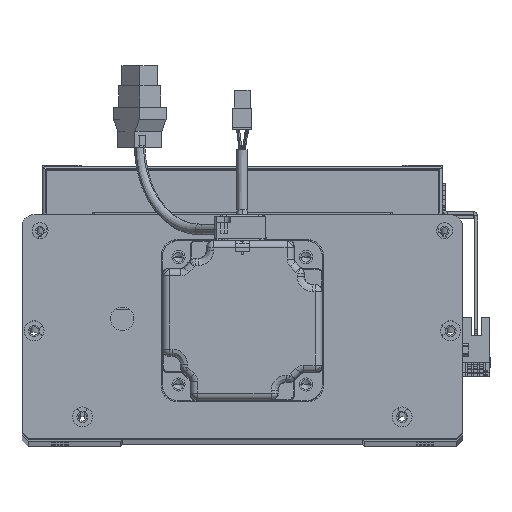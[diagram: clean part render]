
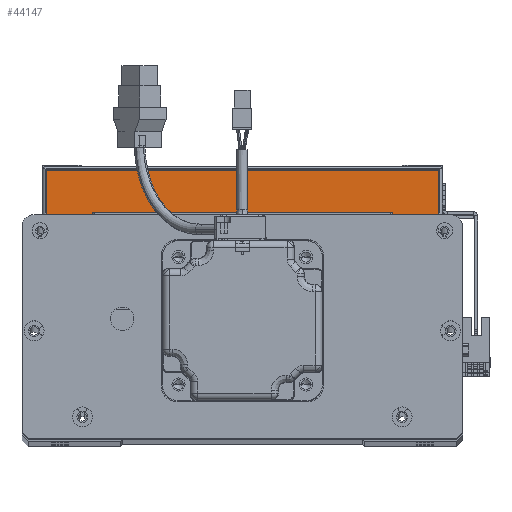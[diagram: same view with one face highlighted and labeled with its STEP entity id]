
A CAD part, top view. The second image highlights one B-rep face of the part: STEP entity #44147.
In plain terms, the highlighted planar face has unit normal (0, 0, 1) as drawn and (1, 0, 0) by its records, which use the part's own axes.
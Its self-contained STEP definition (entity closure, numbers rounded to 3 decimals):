
#1859 = VERTEX_POINT ( 'NONE', #51057 ) ;
#3922 = VERTEX_POINT ( 'NONE', #11935 ) ;
#7232 = DIRECTION ( 'NONE',  ( 0., 1., 0. ) ) ;
#11935 = CARTESIAN_POINT ( 'NONE',  ( 150., 22.5, -98. ) ) ;
#12269 = VERTEX_POINT ( 'NONE', #45018 ) ;
#15949 = VECTOR ( 'NONE', #49456, 1000. ) ;
#16260 = EDGE_CURVE ( 'NONE', #3922, #61060, #60023, .T. ) ;
#17307 = EDGE_CURVE ( 'NONE', #12269, #1859, #49874, .T. ) ;
#18285 = ORIENTED_EDGE ( 'NONE', *, *, #24349, .T. ) ;
#18669 = CARTESIAN_POINT ( 'NONE',  ( 150., 22.5, 98. ) ) ;
#22135 = PLANE ( 'NONE',  #23810 ) ;
#23810 = AXIS2_PLACEMENT_3D ( 'NONE', #27702, #54287, #54516 ) ;
#24243 = DIRECTION ( 'NONE',  ( 0., 0., 1. ) ) ;
#24349 = EDGE_CURVE ( 'NONE', #1859, #3922, #32858, .T. ) ;
#25847 = CARTESIAN_POINT ( 'NONE',  ( 150., 22.5, 98. ) ) ;
#27163 = EDGE_LOOP ( 'NONE', ( #18285, #32846, #29913, #51412 ) ) ;
#27702 = CARTESIAN_POINT ( 'NONE',  ( 150., 23.5, -100. ) ) ;
#29913 = ORIENTED_EDGE ( 'NONE', *, *, #61658, .T. ) ;
#32846 = ORIENTED_EDGE ( 'NONE', *, *, #16260, .T. ) ;
#32858 = LINE ( 'NONE', #34306, #41215 ) ;
#33324 = FACE_OUTER_BOUND ( 'NONE', #27163, .T. ) ;
#33461 = LINE ( 'NONE', #65551, #15949 ) ;
#34306 = CARTESIAN_POINT ( 'NONE',  ( 150., 23.5, -98. ) ) ;
#41215 = VECTOR ( 'NONE', #7232, 1000. ) ;
#44147 = ADVANCED_FACE ( 'NONE', ( #33324 ), #22135, .F. ) ;
#44622 = DIRECTION ( 'NONE',  ( 0., 0., -1. ) ) ;
#45018 = CARTESIAN_POINT ( 'NONE',  ( 150., 0., 98. ) ) ;
#49456 = DIRECTION ( 'NONE',  ( 0., -1., 0. ) ) ;
#49874 = LINE ( 'NONE', #51609, #54883 ) ;
#51057 = CARTESIAN_POINT ( 'NONE',  ( 150., 0., -98. ) ) ;
#51412 = ORIENTED_EDGE ( 'NONE', *, *, #17307, .T. ) ;
#51609 = CARTESIAN_POINT ( 'NONE',  ( 150., 0., -100. ) ) ;
#54287 = DIRECTION ( 'NONE',  ( -1., 0., 0. ) ) ;
#54516 = DIRECTION ( 'NONE',  ( 0., 0., 1. ) ) ;
#54883 = VECTOR ( 'NONE', #44622, 1000. ) ;
#58362 = VECTOR ( 'NONE', #24243, 1000. ) ;
#60023 = LINE ( 'NONE', #18669, #58362 ) ;
#61060 = VERTEX_POINT ( 'NONE', #25847 ) ;
#61658 = EDGE_CURVE ( 'NONE', #61060, #12269, #33461, .T. ) ;
#65551 = CARTESIAN_POINT ( 'NONE',  ( 150., 23.5, 98. ) ) ;
